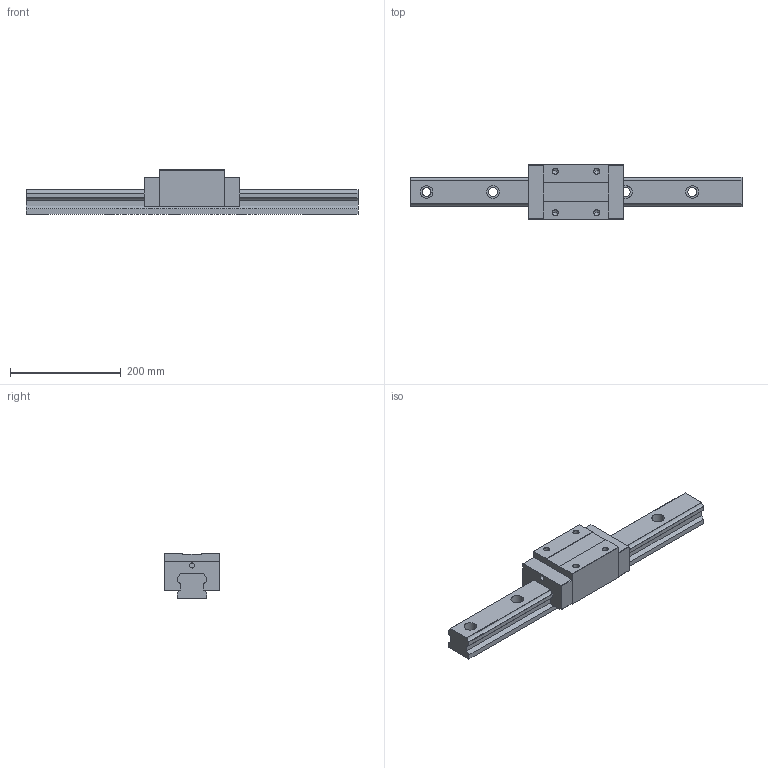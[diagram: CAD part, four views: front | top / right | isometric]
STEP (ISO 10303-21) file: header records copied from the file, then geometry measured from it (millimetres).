
FILE_DESCRIPTION (( 'STEP AP203' ), '1' );
FILE_NAME ('TRH55VL-ZN-§ï.STEP', '2023-08-31T01:28:51', ( '' ), ( '' ), 'SwSTEP 2.0', 'SolidWorks 2022', '' );
FILE_SCHEMA (( 'CONFIG_CONTROL_DESIGN' ));
Length unit declared in the file: millimetre
Products named in the file (1): TRH55VL-ZN-改
Bounding box: 600 x 100 x 80 mm (x, y, z)
Volume: 2007136.4 mm3; surface area: 205110.3 mm2
Topology: 1 solids, 1 shells, 160 faces, 440 edges, 282 vertices
Faces by surface type: plane 76, cylinder 68, cone 16
Entity records: 5139 total; most frequent: DIRECTION 900, CARTESIAN_POINT 875, ORIENTED_EDGE 864, EDGE_CURVE 432, AXIS2_PLACEMENT_3D 307, LINE 286, VECTOR 286, VERTEX_POINT 282
